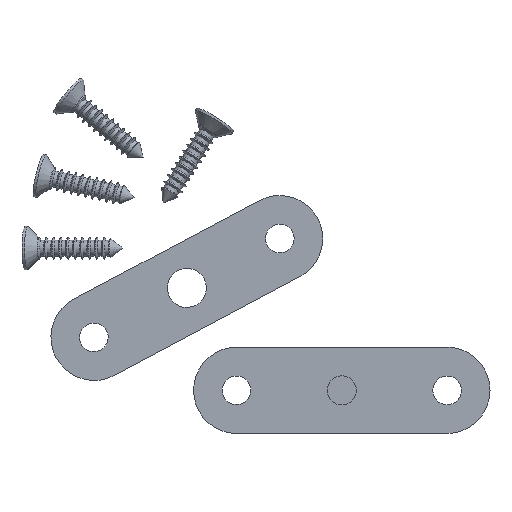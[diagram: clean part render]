
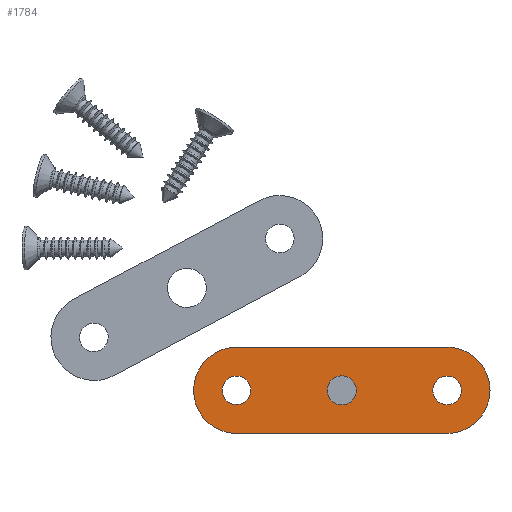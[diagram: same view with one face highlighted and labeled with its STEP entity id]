
A CAD part, front view. The second image highlights one B-rep face of the part: STEP entity #1784.
In plain terms, the highlighted planar face has unit normal (0, -1, 0).
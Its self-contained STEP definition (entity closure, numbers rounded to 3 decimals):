
#71 = DIRECTION ( 'NONE',  ( 0., 1., 0. ) ) ;
#108 = CIRCLE ( 'NONE', #3643, 8.3 ) ;
#128 = CARTESIAN_POINT ( 'NONE',  ( 0., 0., 0. ) ) ;
#135 = CARTESIAN_POINT ( 'NONE',  ( 0., 0., 0. ) ) ;
#250 = CARTESIAN_POINT ( 'NONE',  ( 20.25, 0., -2.75 ) ) ;
#264 = DIRECTION ( 'NONE',  ( 1., 0., 0. ) ) ;
#423 = VECTOR ( 'NONE', #264, 1000. ) ;
#445 = AXIS2_PLACEMENT_3D ( 'NONE', #128, #501, #897 ) ;
#474 = EDGE_CURVE ( 'NONE', #3970, #2347, #1034, .T. ) ;
#501 = DIRECTION ( 'NONE',  ( 0., -1., 0. ) ) ;
#517 = AXIS2_PLACEMENT_3D ( 'NONE', #4300, #2119, #3615 ) ;
#520 = VECTOR ( 'NONE', #2938, 1000. ) ;
#534 = EDGE_LOOP ( 'NONE', ( #3942, #4310, #4823, #1103 ) ) ;
#540 = DIRECTION ( 'NONE',  ( 0., 1., 0. ) ) ;
#552 = EDGE_CURVE ( 'NONE', #3464, #2347, #108, .T. ) ;
#634 = DIRECTION ( 'NONE',  ( 0., 0., 1. ) ) ;
#664 = DIRECTION ( 'NONE',  ( 0., 0., 1. ) ) ;
#698 = FACE_BOUND ( 'NONE', #2942, .T. ) ;
#742 = FACE_BOUND ( 'NONE', #3770, .T. ) ;
#769 = CARTESIAN_POINT ( 'NONE',  ( 0., 0., 0. ) ) ;
#794 = AXIS2_PLACEMENT_3D ( 'NONE', #1333, #2818, #4676 ) ;
#897 = DIRECTION ( 'NONE',  ( 0., 0., -1. ) ) ;
#915 = EDGE_CURVE ( 'NONE', #3970, #944, #3881, .T. ) ;
#916 = VERTEX_POINT ( 'NONE', #250 ) ;
#944 = VERTEX_POINT ( 'NONE', #3133 ) ;
#945 = DIRECTION ( 'NONE',  ( 0., -1., 0. ) ) ;
#984 = CARTESIAN_POINT ( 'NONE',  ( 0., 0., -2.8 ) ) ;
#1034 = LINE ( 'NONE', #2142, #423 ) ;
#1062 = CIRCLE ( 'NONE', #2241, 2.8 ) ;
#1103 = ORIENTED_EDGE ( 'NONE', *, *, #915, .T. ) ;
#1117 = FACE_BOUND ( 'NONE', #1932, .T. ) ;
#1173 = CARTESIAN_POINT ( 'NONE',  ( -20.2, 0., 8.3 ) ) ;
#1277 = EDGE_CURVE ( 'NONE', #3464, #944, #2570, .T. ) ;
#1333 = CARTESIAN_POINT ( 'NONE',  ( 20.25, 0., 0. ) ) ;
#1356 = ORIENTED_EDGE ( 'NONE', *, *, #4471, .F. ) ;
#1495 = CARTESIAN_POINT ( 'NONE',  ( 28.5, 0., -8.3 ) ) ;
#1540 = AXIS2_PLACEMENT_3D ( 'NONE', #2659, #71, #3375 ) ;
#1566 = CARTESIAN_POINT ( 'NONE',  ( 20.2, 0., -8.3 ) ) ;
#1618 = DIRECTION ( 'NONE',  ( 0., -1., 0. ) ) ;
#1648 = CARTESIAN_POINT ( 'NONE',  ( -20.25, 0., 2.75 ) ) ;
#1750 = AXIS2_PLACEMENT_3D ( 'NONE', #3602, #540, #634 ) ;
#1784 = ADVANCED_FACE ( 'NONE', ( #1117, #742, #698, #3348 ), #2536, .T. ) ;
#1800 = ORIENTED_EDGE ( 'NONE', *, *, #3525, .T. ) ;
#1932 = EDGE_LOOP ( 'NONE', ( #1356, #4178 ) ) ;
#2039 = ORIENTED_EDGE ( 'NONE', *, *, #4291, .T. ) ;
#2119 = DIRECTION ( 'NONE',  ( 0., -1., 0. ) ) ;
#2142 = CARTESIAN_POINT ( 'NONE',  ( 28.5, 0., 8.3 ) ) ;
#2174 = DIRECTION ( 'NONE',  ( 0., 0., -1. ) ) ;
#2221 = CIRCLE ( 'NONE', #1750, 2.75 ) ;
#2233 = EDGE_CURVE ( 'NONE', #3163, #3895, #1062, .T. ) ;
#2241 = AXIS2_PLACEMENT_3D ( 'NONE', #135, #1618, #4599 ) ;
#2347 = VERTEX_POINT ( 'NONE', #4773 ) ;
#2485 = DIRECTION ( 'NONE',  ( 0., 0., -1. ) ) ;
#2536 = PLANE ( 'NONE',  #3578 ) ;
#2570 = LINE ( 'NONE', #1495, #520 ) ;
#2649 = VERTEX_POINT ( 'NONE', #4135 ) ;
#2659 = CARTESIAN_POINT ( 'NONE',  ( -20.25, 0., 0. ) ) ;
#2804 = DIRECTION ( 'NONE',  ( 0., 1., 0. ) ) ;
#2818 = DIRECTION ( 'NONE',  ( 0., 1., 0. ) ) ;
#2843 = ORIENTED_EDGE ( 'NONE', *, *, #3684, .T. ) ;
#2902 = CARTESIAN_POINT ( 'NONE',  ( 20.2, 0., 0. ) ) ;
#2919 = CIRCLE ( 'NONE', #794, 2.75 ) ;
#2938 = DIRECTION ( 'NONE',  ( -1., 0., 0. ) ) ;
#2942 = EDGE_LOOP ( 'NONE', ( #1800, #3846 ) ) ;
#3088 = EDGE_CURVE ( 'NONE', #916, #3309, #4241, .T. ) ;
#3133 = CARTESIAN_POINT ( 'NONE',  ( -20.2, 0., -8.3 ) ) ;
#3163 = VERTEX_POINT ( 'NONE', #984 ) ;
#3309 = VERTEX_POINT ( 'NONE', #3675 ) ;
#3348 = FACE_OUTER_BOUND ( 'NONE', #534, .T. ) ;
#3350 = CIRCLE ( 'NONE', #445, 2.8 ) ;
#3375 = DIRECTION ( 'NONE',  ( 0., 0., 1. ) ) ;
#3390 = DIRECTION ( 'NONE',  ( 0., -1., 0. ) ) ;
#3456 = VERTEX_POINT ( 'NONE', #1648 ) ;
#3464 = VERTEX_POINT ( 'NONE', #1566 ) ;
#3501 = CARTESIAN_POINT ( 'NONE',  ( 0., 0., 2.8 ) ) ;
#3525 = EDGE_CURVE ( 'NONE', #3309, #916, #2919, .T. ) ;
#3578 = AXIS2_PLACEMENT_3D ( 'NONE', #769, #3390, #2174 ) ;
#3602 = CARTESIAN_POINT ( 'NONE',  ( -20.25, 0., 0. ) ) ;
#3615 = DIRECTION ( 'NONE',  ( 0., 0., -1. ) ) ;
#3643 = AXIS2_PLACEMENT_3D ( 'NONE', #2902, #945, #2485 ) ;
#3655 = CIRCLE ( 'NONE', #1540, 2.75 ) ;
#3675 = CARTESIAN_POINT ( 'NONE',  ( 20.25, 0., 2.75 ) ) ;
#3684 = EDGE_CURVE ( 'NONE', #2649, #3456, #2221, .T. ) ;
#3770 = EDGE_LOOP ( 'NONE', ( #2039, #2843 ) ) ;
#3846 = ORIENTED_EDGE ( 'NONE', *, *, #3088, .T. ) ;
#3881 = CIRCLE ( 'NONE', #517, 8.3 ) ;
#3895 = VERTEX_POINT ( 'NONE', #3501 ) ;
#3942 = ORIENTED_EDGE ( 'NONE', *, *, #1277, .F. ) ;
#3970 = VERTEX_POINT ( 'NONE', #1173 ) ;
#4005 = AXIS2_PLACEMENT_3D ( 'NONE', #4759, #2804, #664 ) ;
#4135 = CARTESIAN_POINT ( 'NONE',  ( -20.25, 0., -2.75 ) ) ;
#4178 = ORIENTED_EDGE ( 'NONE', *, *, #2233, .F. ) ;
#4241 = CIRCLE ( 'NONE', #4005, 2.75 ) ;
#4291 = EDGE_CURVE ( 'NONE', #3456, #2649, #3655, .T. ) ;
#4300 = CARTESIAN_POINT ( 'NONE',  ( -20.2, 0., 0. ) ) ;
#4310 = ORIENTED_EDGE ( 'NONE', *, *, #552, .T. ) ;
#4471 = EDGE_CURVE ( 'NONE', #3895, #3163, #3350, .T. ) ;
#4599 = DIRECTION ( 'NONE',  ( 0., 0., -1. ) ) ;
#4676 = DIRECTION ( 'NONE',  ( 0., 0., 1. ) ) ;
#4759 = CARTESIAN_POINT ( 'NONE',  ( 20.25, 0., 0. ) ) ;
#4773 = CARTESIAN_POINT ( 'NONE',  ( 20.2, 0., 8.3 ) ) ;
#4823 = ORIENTED_EDGE ( 'NONE', *, *, #474, .F. ) ;
